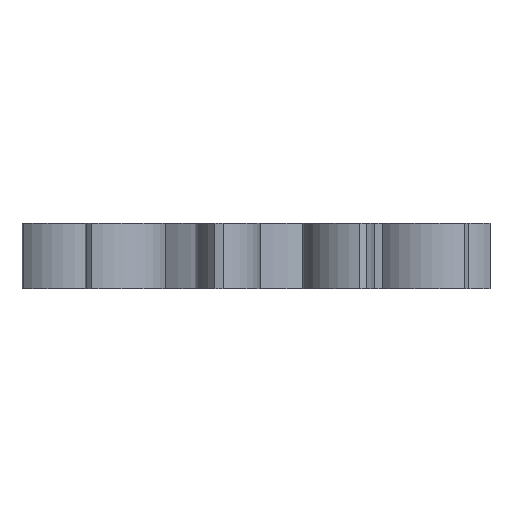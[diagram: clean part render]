
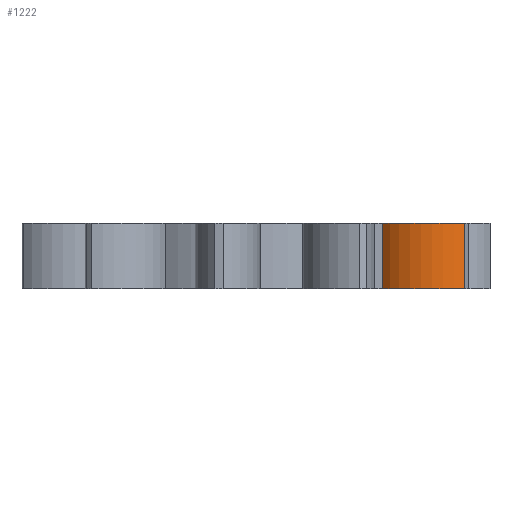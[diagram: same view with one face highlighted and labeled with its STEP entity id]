
A CAD part, front view. The second image highlights one B-rep face of the part: STEP entity #1222.
In plain terms, the highlighted cylindrical face has radius 5.13 mm (diameter 10.261 mm), a partial arc.
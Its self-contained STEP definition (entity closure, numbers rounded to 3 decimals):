
#22 = VERTEX_POINT ( 'NONE', #1397 ) ;
#28 = AXIS2_PLACEMENT_3D ( 'NONE', #1594, #1782, #339 ) ;
#33 = AXIS2_PLACEMENT_3D ( 'NONE', #587, #2042, #429 ) ;
#180 = EDGE_CURVE ( 'NONE', #22, #1558, #1791, .T. ) ;
#319 = ORIENTED_EDGE ( 'NONE', *, *, #180, .T. ) ;
#339 = DIRECTION ( 'NONE',  ( 1., 0., 0. ) ) ;
#429 = DIRECTION ( 'NONE',  ( 1., 0., 0. ) ) ;
#474 = CIRCLE ( 'NONE', #33, 5.13 ) ;
#502 = ORIENTED_EDGE ( 'NONE', *, *, #1940, .F. ) ;
#587 = CARTESIAN_POINT ( 'NONE',  ( 13.549, -3.885, 5. ) ) ;
#702 = CARTESIAN_POINT ( 'NONE',  ( 9.616, -7.179, 0. ) ) ;
#751 = CARTESIAN_POINT ( 'NONE',  ( 13.549, -3.885, 0. ) ) ;
#777 = VECTOR ( 'NONE', #2000, 1000. ) ;
#882 = DIRECTION ( 'NONE',  ( 0., 0., 1. ) ) ;
#954 = ORIENTED_EDGE ( 'NONE', *, *, #2069, .F. ) ;
#962 = VECTOR ( 'NONE', #882, 1000. ) ;
#1020 = CARTESIAN_POINT ( 'NONE',  ( 15.894, -8.448, 5. ) ) ;
#1074 = FACE_OUTER_BOUND ( 'NONE', #1667, .T. ) ;
#1085 = CYLINDRICAL_SURFACE ( 'NONE', #1106, 5.13 ) ;
#1106 = AXIS2_PLACEMENT_3D ( 'NONE', #751, #1243, #1400 ) ;
#1222 = ADVANCED_FACE ( 'NONE', ( #1074 ), #1085, .T. ) ;
#1243 = DIRECTION ( 'NONE',  ( 0., 0., 1. ) ) ;
#1290 = CARTESIAN_POINT ( 'NONE',  ( 15.894, -8.448, 0. ) ) ;
#1354 = CARTESIAN_POINT ( 'NONE',  ( 9.616, -7.179, 0. ) ) ;
#1397 = CARTESIAN_POINT ( 'NONE',  ( 15.894, -8.448, 0. ) ) ;
#1400 = DIRECTION ( 'NONE',  ( 1., 0., 0. ) ) ;
#1492 = LINE ( 'NONE', #1354, #777 ) ;
#1502 = EDGE_CURVE ( 'NONE', #2034, #22, #1784, .T. ) ;
#1539 = CARTESIAN_POINT ( 'NONE',  ( 9.616, -7.179, 5. ) ) ;
#1558 = VERTEX_POINT ( 'NONE', #1020 ) ;
#1594 = CARTESIAN_POINT ( 'NONE',  ( 13.549, -3.885, 0. ) ) ;
#1667 = EDGE_LOOP ( 'NONE', ( #954, #502, #1701, #319 ) ) ;
#1701 = ORIENTED_EDGE ( 'NONE', *, *, #1502, .T. ) ;
#1773 = VERTEX_POINT ( 'NONE', #1539 ) ;
#1782 = DIRECTION ( 'NONE',  ( 0., 0., 1. ) ) ;
#1784 = CIRCLE ( 'NONE', #28, 5.13 ) ;
#1791 = LINE ( 'NONE', #1290, #962 ) ;
#1940 = EDGE_CURVE ( 'NONE', #2034, #1773, #1492, .T. ) ;
#2000 = DIRECTION ( 'NONE',  ( 0., 0., 1. ) ) ;
#2034 = VERTEX_POINT ( 'NONE', #702 ) ;
#2042 = DIRECTION ( 'NONE',  ( 0., 0., 1. ) ) ;
#2069 = EDGE_CURVE ( 'NONE', #1773, #1558, #474, .T. ) ;
